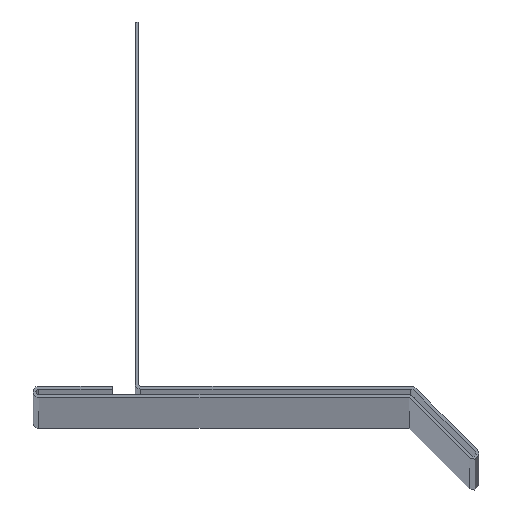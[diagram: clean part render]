
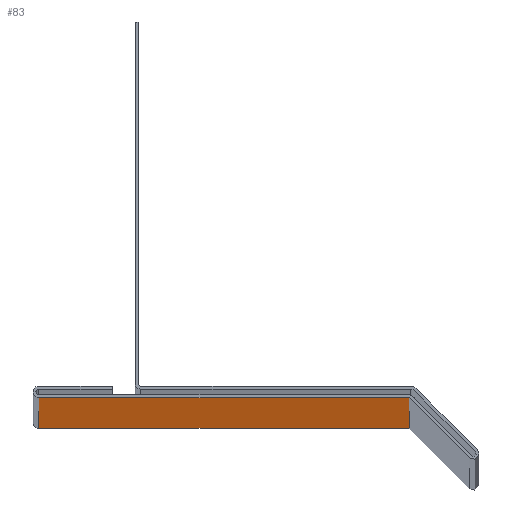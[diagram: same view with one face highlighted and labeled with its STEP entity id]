
A CAD part, top view. The second image highlights one B-rep face of the part: STEP entity #83.
In plain terms, the highlighted planar face has unit normal (0, -1, 0).
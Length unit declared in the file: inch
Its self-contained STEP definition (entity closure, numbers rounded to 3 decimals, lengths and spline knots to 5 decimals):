
#54 = DIRECTION ( 'NONE',  ( -1., 0., 0. ) ) ;
#83 = ADVANCED_FACE ( 'NONE', ( #1017 ), #119, .T. ) ;
#102 = EDGE_CURVE ( 'NONE', #599, #452, #331, .T. ) ;
#119 = PLANE ( 'NONE',  #149 ) ;
#147 = VECTOR ( 'NONE', #54, 39.37008 ) ;
#149 = AXIS2_PLACEMENT_3D ( 'NONE', #980, #405, #569 ) ;
#237 = VECTOR ( 'NONE', #280, 39.37008 ) ;
#276 = CARTESIAN_POINT ( 'NONE',  ( 1.86747, -0.05819, 120. ) ) ;
#280 = DIRECTION ( 'NONE',  ( 0., 0., -1. ) ) ;
#293 = CARTESIAN_POINT ( 'NONE',  ( 1.86747, -0.05819, 120. ) ) ;
#317 = ORIENTED_EDGE ( 'NONE', *, *, #476, .T. ) ;
#319 = VECTOR ( 'NONE', #372, 39.37008 ) ;
#320 = EDGE_CURVE ( 'NONE', #988, #335, #441, .T. ) ;
#331 = LINE ( 'NONE', #584, #731 ) ;
#335 = VERTEX_POINT ( 'NONE', #715 ) ;
#352 = LINE ( 'NONE', #533, #319 ) ;
#372 = DIRECTION ( 'NONE',  ( 0., 0., -1. ) ) ;
#405 = DIRECTION ( 'NONE',  ( 0., -1., 0. ) ) ;
#438 = CARTESIAN_POINT ( 'NONE',  ( 1.86747, -0.05819, 120. ) ) ;
#441 = LINE ( 'NONE', #293, #147 ) ;
#442 = ORIENTED_EDGE ( 'NONE', *, *, #950, .F. ) ;
#452 = VERTEX_POINT ( 'NONE', #565 ) ;
#476 = EDGE_CURVE ( 'NONE', #335, #452, #352, .T. ) ;
#487 = ORIENTED_EDGE ( 'NONE', *, *, #320, .T. ) ;
#512 = EDGE_LOOP ( 'NONE', ( #838, #442, #487, #317 ) ) ;
#533 = CARTESIAN_POINT ( 'NONE',  ( -0.6558, -0.05819, 120. ) ) ;
#565 = CARTESIAN_POINT ( 'NONE',  ( -0.6558, -0.05819, 0. ) ) ;
#569 = DIRECTION ( 'NONE',  ( 1., 0., 0. ) ) ;
#584 = CARTESIAN_POINT ( 'NONE',  ( 1.86747, -0.05819, 0. ) ) ;
#598 = CARTESIAN_POINT ( 'NONE',  ( 1.86747, -0.05819, 0. ) ) ;
#599 = VERTEX_POINT ( 'NONE', #598 ) ;
#702 = DIRECTION ( 'NONE',  ( -1., 0., 0. ) ) ;
#715 = CARTESIAN_POINT ( 'NONE',  ( -0.6558, -0.05819, 120. ) ) ;
#731 = VECTOR ( 'NONE', #702, 39.37008 ) ;
#838 = ORIENTED_EDGE ( 'NONE', *, *, #102, .F. ) ;
#950 = EDGE_CURVE ( 'NONE', #988, #599, #1022, .T. ) ;
#980 = CARTESIAN_POINT ( 'NONE',  ( 1.86747, -0.05819, 120. ) ) ;
#988 = VERTEX_POINT ( 'NONE', #276 ) ;
#1017 = FACE_OUTER_BOUND ( 'NONE', #512, .T. ) ;
#1022 = LINE ( 'NONE', #438, #237 ) ;
